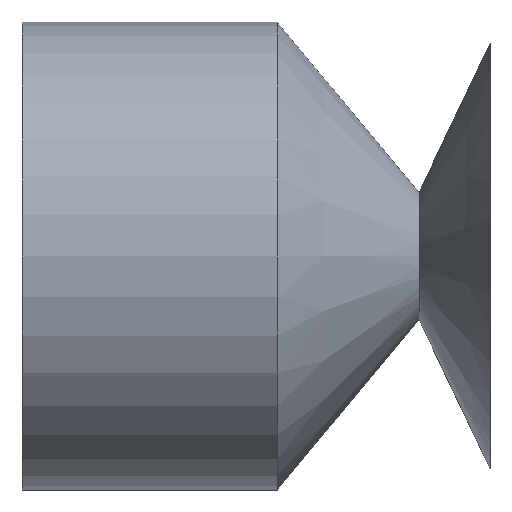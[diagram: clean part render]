
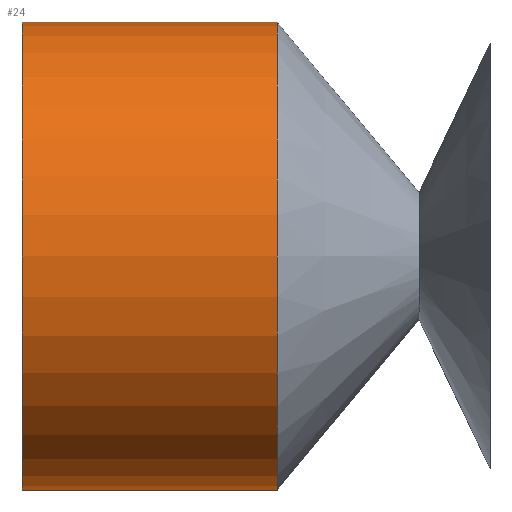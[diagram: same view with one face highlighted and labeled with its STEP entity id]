
A CAD part, left-side view. The second image highlights one B-rep face of the part: STEP entity #24.
In plain terms, the highlighted cylindrical face has radius 5.5 mm (diameter 11 mm), a partial arc.
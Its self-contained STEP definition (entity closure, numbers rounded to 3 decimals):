
#3 = LINE ( 'NONE', #15, #171 ) ;
#15 = CARTESIAN_POINT ( 'NONE',  ( 0., 0., -5.5 ) ) ;
#22 = DIRECTION ( 'NONE',  ( 0., 0., -1. ) ) ;
#24 = ADVANCED_FACE ( 'NONE', ( #152 ), #441, .T. ) ;
#27 = VERTEX_POINT ( 'NONE', #431 ) ;
#28 = VERTEX_POINT ( 'NONE', #149 ) ;
#29 = DIRECTION ( 'NONE',  ( 0., -1., 0. ) ) ;
#33 = CARTESIAN_POINT ( 'NONE',  ( 0., 0., 5.5 ) ) ;
#41 = ORIENTED_EDGE ( 'NONE', *, *, #107, .T. ) ;
#45 = CIRCLE ( 'NONE', #327, 5.5 ) ;
#55 = CARTESIAN_POINT ( 'NONE',  ( 0., 0., 0. ) ) ;
#65 = VERTEX_POINT ( 'NONE', #503 ) ;
#66 = DIRECTION ( 'NONE',  ( 0., 0., -1. ) ) ;
#107 = EDGE_CURVE ( 'NONE', #65, #385, #3, .T. ) ;
#119 = ORIENTED_EDGE ( 'NONE', *, *, #173, .F. ) ;
#132 = ORIENTED_EDGE ( 'NONE', *, *, #146, .T. ) ;
#146 = EDGE_CURVE ( 'NONE', #28, #65, #390, .T. ) ;
#149 = CARTESIAN_POINT ( 'NONE',  ( 0., 11., 5.5 ) ) ;
#152 = FACE_OUTER_BOUND ( 'NONE', #274, .T. ) ;
#171 = VECTOR ( 'NONE', #499, 1000. ) ;
#173 = EDGE_CURVE ( 'NONE', #27, #385, #45, .T. ) ;
#232 = DIRECTION ( 'NONE',  ( 0., -1., 0. ) ) ;
#247 = AXIS2_PLACEMENT_3D ( 'NONE', #507, #232, #22 ) ;
#252 = EDGE_CURVE ( 'NONE', #28, #27, #454, .T. ) ;
#274 = EDGE_LOOP ( 'NONE', ( #362, #132, #41, #119 ) ) ;
#327 = AXIS2_PLACEMENT_3D ( 'NONE', #344, #388, #66 ) ;
#328 = CARTESIAN_POINT ( 'NONE',  ( 0., 5., -5.5 ) ) ;
#344 = CARTESIAN_POINT ( 'NONE',  ( 0., 5., 0. ) ) ;
#362 = ORIENTED_EDGE ( 'NONE', *, *, #252, .F. ) ;
#385 = VERTEX_POINT ( 'NONE', #328 ) ;
#387 = DIRECTION ( 'NONE',  ( 0., 0., -1. ) ) ;
#388 = DIRECTION ( 'NONE',  ( 0., -1., 0. ) ) ;
#390 = CIRCLE ( 'NONE', #247, 5.5 ) ;
#428 = VECTOR ( 'NONE', #519, 1000. ) ;
#431 = CARTESIAN_POINT ( 'NONE',  ( 0., 5., 5.5 ) ) ;
#441 = CYLINDRICAL_SURFACE ( 'NONE', #493, 5.5 ) ;
#454 = LINE ( 'NONE', #33, #428 ) ;
#493 = AXIS2_PLACEMENT_3D ( 'NONE', #55, #29, #387 ) ;
#499 = DIRECTION ( 'NONE',  ( 0., -1., 0. ) ) ;
#503 = CARTESIAN_POINT ( 'NONE',  ( 0., 11., -5.5 ) ) ;
#507 = CARTESIAN_POINT ( 'NONE',  ( 0., 11., 0. ) ) ;
#519 = DIRECTION ( 'NONE',  ( 0., -1., 0. ) ) ;
